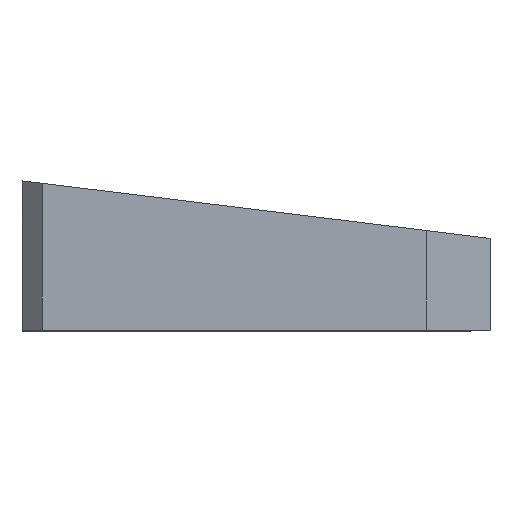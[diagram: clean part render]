
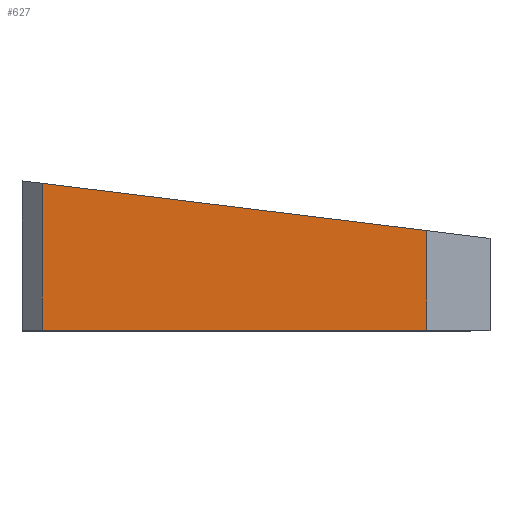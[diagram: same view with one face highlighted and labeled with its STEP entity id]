
A CAD part, top view. The second image highlights one B-rep face of the part: STEP entity #627.
In plain terms, the highlighted planar face has unit normal (0, 0, 1).
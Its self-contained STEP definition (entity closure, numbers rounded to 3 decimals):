
#8 = VERTEX_POINT ( 'NONE', #1779 ) ;
#59 = CARTESIAN_POINT ( 'NONE',  ( 33.5, 6., 39. ) ) ;
#115 = LINE ( 'NONE', #1468, #553 ) ;
#141 = DIRECTION ( 'NONE',  ( 0., -1., 0. ) ) ;
#155 = LINE ( 'NONE', #1836, #909 ) ;
#204 = EDGE_CURVE ( 'NONE', #8, #1281, #155, .T. ) ;
#366 = ORIENTED_EDGE ( 'NONE', *, *, #1678, .T. ) ;
#415 = DIRECTION ( 'NONE',  ( 0.993, -0.122, 0. ) ) ;
#460 = AXIS2_PLACEMENT_3D ( 'NONE', #59, #686, #1126 ) ;
#485 = LINE ( 'NONE', #1554, #940 ) ;
#527 = DIRECTION ( 'NONE',  ( 0., -1., 0. ) ) ;
#553 = VECTOR ( 'NONE', #527, 1000. ) ;
#627 = ADVANCED_FACE ( 'NONE', ( #1983 ), #987, .F. ) ;
#686 = DIRECTION ( 'NONE',  ( 0., 0., -1. ) ) ;
#850 = EDGE_LOOP ( 'NONE', ( #1932, #1891, #1841, #366 ) ) ;
#909 = VECTOR ( 'NONE', #415, 1000. ) ;
#914 = LINE ( 'NONE', #1474, #1378 ) ;
#940 = VECTOR ( 'NONE', #141, 1000. ) ;
#987 = PLANE ( 'NONE',  #460 ) ;
#1065 = CARTESIAN_POINT ( 'NONE',  ( 33.5, 0., 39. ) ) ;
#1092 = VERTEX_POINT ( 'NONE', #1483 ) ;
#1126 = DIRECTION ( 'NONE',  ( -1., 0., 0. ) ) ;
#1281 = VERTEX_POINT ( 'NONE', #1668 ) ;
#1378 = VECTOR ( 'NONE', #1454, 1000. ) ;
#1454 = DIRECTION ( 'NONE',  ( 1., 0., 0. ) ) ;
#1468 = CARTESIAN_POINT ( 'NONE',  ( 0., 6., 39. ) ) ;
#1474 = CARTESIAN_POINT ( 'NONE',  ( 33.5, 0., 39. ) ) ;
#1480 = EDGE_CURVE ( 'NONE', #1281, #1511, #485, .T. ) ;
#1483 = CARTESIAN_POINT ( 'NONE',  ( 0., 0., 39. ) ) ;
#1511 = VERTEX_POINT ( 'NONE', #1065 ) ;
#1554 = CARTESIAN_POINT ( 'NONE',  ( 33.5, 6., 39. ) ) ;
#1668 = CARTESIAN_POINT ( 'NONE',  ( 33.5, 8.675, 39. ) ) ;
#1678 = EDGE_CURVE ( 'NONE', #1092, #1511, #914, .T. ) ;
#1711 = EDGE_CURVE ( 'NONE', #8, #1092, #115, .T. ) ;
#1779 = CARTESIAN_POINT ( 'NONE',  ( 0., 12.785, 39. ) ) ;
#1836 = CARTESIAN_POINT ( 'NONE',  ( -1.75, 13., 39. ) ) ;
#1841 = ORIENTED_EDGE ( 'NONE', *, *, #1711, .T. ) ;
#1891 = ORIENTED_EDGE ( 'NONE', *, *, #204, .F. ) ;
#1932 = ORIENTED_EDGE ( 'NONE', *, *, #1480, .F. ) ;
#1983 = FACE_OUTER_BOUND ( 'NONE', #850, .T. ) ;
